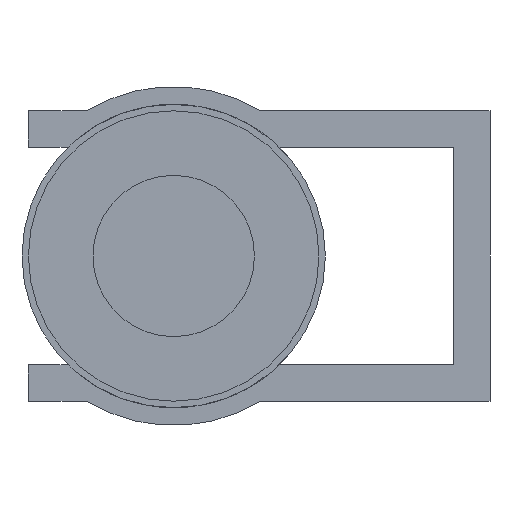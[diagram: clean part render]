
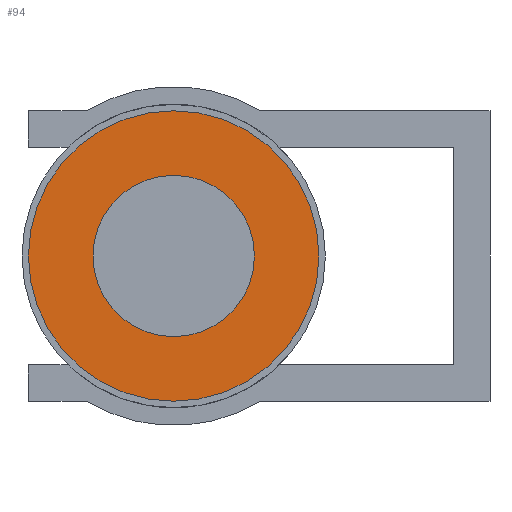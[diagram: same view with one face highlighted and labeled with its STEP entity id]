
A CAD part, left-side view. The second image highlights one B-rep face of the part: STEP entity #94.
In plain terms, the highlighted planar face has unit normal (-1, 0, 0).
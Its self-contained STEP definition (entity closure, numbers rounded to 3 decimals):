
#94=ADVANCED_FACE('',(#184,#185),#186,.F.);
#184=FACE_BOUND('',#321,.T.);
#185=FACE_OUTER_BOUND('',#322,.T.);
#186=PLANE('',#323);
#321=EDGE_LOOP('',(#529));
#322=EDGE_LOOP('',(#530));
#323=AXIS2_PLACEMENT_3D('',#531,#532,#533);
#529=ORIENTED_EDGE('',*,*,#878,.T.);
#530=ORIENTED_EDGE('',*,*,#879,.F.);
#531=CARTESIAN_POINT('',(-39.8,5.0,0.0));
#532=DIRECTION('',(1.0,0.,0.0));
#533=DIRECTION('',(0.,1.0,0.0));
#878=EDGE_CURVE('',#1057,#1057,#1058,.T.);
#879=EDGE_CURVE('',#1059,#1059,#1060,.T.);
#1057=VERTEX_POINT('',#1304);
#1058=CIRCLE('',#1305,5.);
#1059=VERTEX_POINT('',#1306);
#1060=CIRCLE('',#1307,9.0);
#1304=CARTESIAN_POINT('',(-39.8,5.0,0.0));
#1305=AXIS2_PLACEMENT_3D('',#1574,#1575,#1576);
#1306=CARTESIAN_POINT('',(-39.8,9.0,0.0));
#1307=AXIS2_PLACEMENT_3D('',#1577,#1578,#1579);
#1574=CARTESIAN_POINT('',(-39.8,0.,0.0));
#1575=DIRECTION('',(1.0,0.,0.0));
#1576=DIRECTION('',(0.,1.0,0.0));
#1577=CARTESIAN_POINT('',(-39.8,0.,0.0));
#1578=DIRECTION('',(1.0,0.,0.0));
#1579=DIRECTION('',(0.,1.0,0.0));
